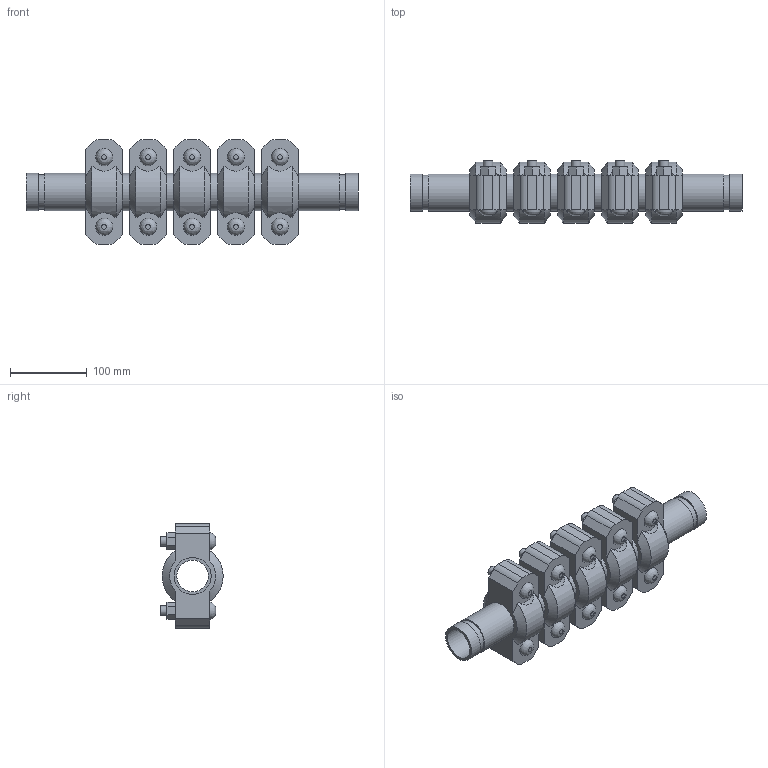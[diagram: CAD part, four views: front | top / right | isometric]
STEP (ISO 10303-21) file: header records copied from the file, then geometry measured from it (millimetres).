
FILE_DESCRIPTION(/* description */ ('VIC EXPANSION JOINT 5 COUPLINGS COMPRESSED STYLE 155 (OGS)','CAx-IF Rec.Pracs.---Representation and Presentation of Product Manufacturing Information (PMI)---4.0---2014-10-13'),/* implementation_level */ '2;1');
FILE_NAME(/* name */ 'C:\Users\kkamble\AppData\Roaming\Autodesk\ApplicationPlugins\Victaulic.Temp\A136\Victaulic_IPS_Expansion Joint_Compressed_5 Couplings_Style 155 (OGS)_1.5 (40).stp',/* time_stamp */ '2021-06-27T00:29:17+02:00',/* author */ ('kkamble'),/* organization */ ('Victaulic'),/* preprocessor_version */ 'ST-DEVELOPER v17.2',/* originating_system */ 'Autodesk Inventor 2019',/* authorisation */ '');
FILE_SCHEMA (('AP242_MANAGED_MODEL_BASED_3D_ENGINEERING_MIM_LF { 1 0 10303 442 1 1 4 }'));
Length unit declared in the file: inch
Products named in the file (4): 155-01.5; Nipple-01.5; Nipple-01.5_1; 077-01.5
Assembly tree (11 placements, depth 2):
  155-01.5
    Nipple-01.5  x2
    Nipple-01.5_1  x4
    077-01.5  x5
Bounding box: 431.8 x 81.03 x 136.65 mm (x, y, z)
Volume: 1516536.7 mm3; surface area: 355295.6 mm2
Topology: 11 solids, 21 shells, 357 faces, 875 edges, 614 vertices
Faces by surface type: plane 206, cylinder 121, cone 20, bspline 10
Full cylindrical faces by diameter (mm): 12.7 x20, 14.605 x10, 40.894 x6, 45.085 x12, 48.26 x23
Entity records: 2923 total; most frequent: CARTESIAN_POINT 589, DIRECTION 467, ORIENTED_EDGE 398, EDGE_CURVE 199, AXIS2_PLACEMENT_3D 186, VERTEX_POINT 142, EDGE_LOOP 105, LINE 95
